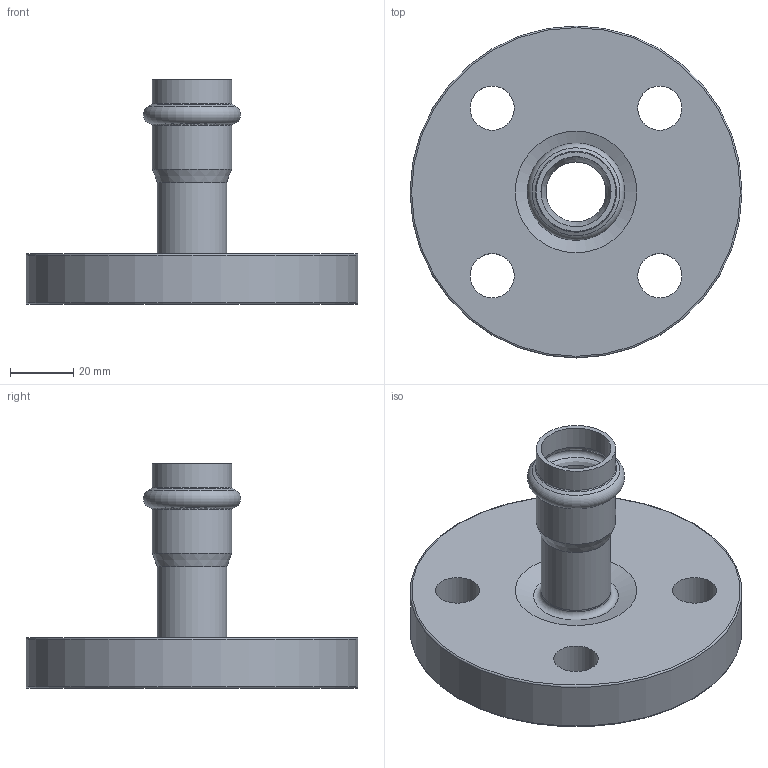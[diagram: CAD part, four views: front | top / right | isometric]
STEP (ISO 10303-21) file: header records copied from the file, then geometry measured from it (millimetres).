
FILE_DESCRIPTION((''),'2;1');
FILE_NAME('G:\Nirosan-Schmiedefeld\Technics\CAD\001 Serie 9.000\022\6VAPF22h(1).stp','2018-09-11T15:56:17',('herberg'),(''),'Autodesk Inventor 2009','Autodesk Inventor 2009','');
FILE_SCHEMA(('AUTOMOTIVE_DESIGN { 1 0 10303 214 1 1 1 1 }'));
Length unit declared in the file: millimetre
Products named in the file (3): 6VAPF22h(1); 69FL2275p(0); 69HMF22p(0)
Assembly tree (2 placements, depth 2):
  6VAPF22h(1)
    69FL2275p(0)
    69HMF22p(0)
Bounding box: 105 x 105 x 71 mm (x, y, z)
Volume: 129383.2 mm3; surface area: 33079 mm2
Topology: 2 solids, 2 shells, 32 faces, 65 edges, 38 vertices
Faces by surface type: cylinder 13, cone 5, torus 5, plane 5, bspline 4
Full cylindrical faces by diameter (mm): 14 x4, 19 x2, 22 x2, 22.15 x2, 25.15 x2, 105 x1
Entity records: 950 total; most frequent: CARTESIAN_POINT 285, DIRECTION 138, ORIENTED_EDGE 72, EDGE_LOOP 72, AXIS2_PLACEMENT_3D 69, FACE_BOUND 40, VERTEX_POINT 36, CIRCLE 36
